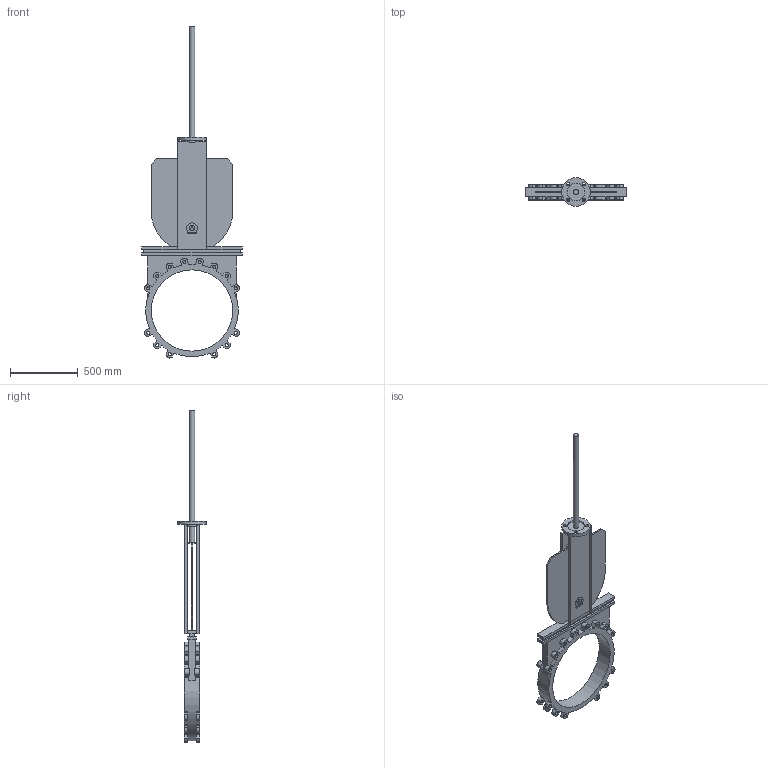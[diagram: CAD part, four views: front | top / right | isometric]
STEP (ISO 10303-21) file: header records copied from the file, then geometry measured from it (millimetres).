
FILE_DESCRIPTION(('STEP AP203'), '1');
FILE_NAME('K51GVA_DN600', '', ('UNSPECIFIED'), ('UNSPECIFIED'), 'ASCON STEP Converter 1.6', 'ASCON Math Kernel', '');
FILE_SCHEMA(('CONFIG_CONTROL_DESIGN'));
Length unit declared in the file: millimetre
Bounding box: 740 x 210 x 2450.42 mm (x, y, z)
Volume: 23844411.1 mm3; surface area: 2947496.6 mm2
Topology: 1 solids, 1 shells, 315 faces, 898 edges, 593 vertices
Faces by surface type: plane 152, cylinder 146, cone 17
Full cylindrical faces by diameter (mm): 22 x4, 23.752 x28, 40 x2, 80 x1, 130 x1, 210 x1, 600 x1
Entity records: 12566 total; most frequent: DIRECTION 1792, CARTESIAN_POINT 1720, ORIENTED_EDGE 1654, EDGE_CURVE 827, AXIS2_PLACEMENT_3D 649, VERTEX_POINT 577, LINE 494, VECTOR 494
